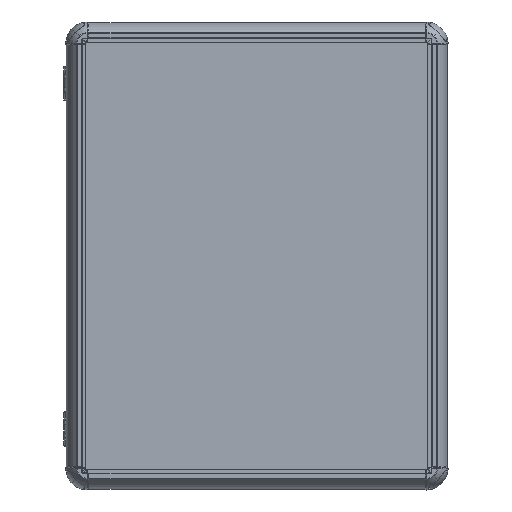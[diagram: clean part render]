
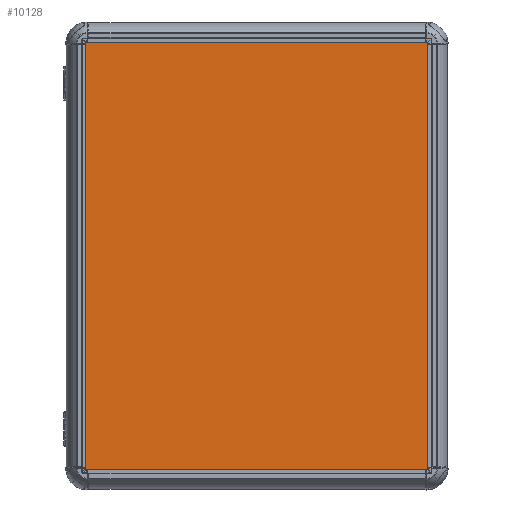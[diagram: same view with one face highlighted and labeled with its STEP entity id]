
A CAD part, top view. The second image highlights one B-rep face of the part: STEP entity #10128.
In plain terms, the highlighted planar face has unit normal (0, 0, 1).
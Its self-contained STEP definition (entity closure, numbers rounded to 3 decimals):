
#6 = EDGE_CURVE ( 'NONE', #145625, #150586, #86297, .T. ) ;
#10128 = ADVANCED_FACE ( 'NONE', ( #60547 ), #97147, .T. ) ;
#18899 = DIRECTION ( 'NONE',  ( -1., 0., 0. ) ) ;
#23058 = LINE ( 'NONE', #147759, #68539 ) ;
#26805 = DIRECTION ( 'NONE',  ( 0., -1., 0. ) ) ;
#28061 = VECTOR ( 'NONE', #26805, 1000. ) ;
#38987 = EDGE_LOOP ( 'NONE', ( #123384, #78680, #44852, #130674 ) ) ;
#40806 = CARTESIAN_POINT ( 'NONE',  ( -200., -250., 2. ) ) ;
#41861 = VECTOR ( 'NONE', #18899, 1000. ) ;
#43446 = VECTOR ( 'NONE', #99722, 1000. ) ;
#44122 = EDGE_CURVE ( 'NONE', #67269, #145625, #103568, .T. ) ;
#44852 = ORIENTED_EDGE ( 'NONE', *, *, #6, .T. ) ;
#53166 = EDGE_CURVE ( 'NONE', #94819, #67269, #23058, .T. ) ;
#59899 = CARTESIAN_POINT ( 'NONE',  ( -200., -250., 2. ) ) ;
#60547 = FACE_OUTER_BOUND ( 'NONE', #38987, .T. ) ;
#67269 = VERTEX_POINT ( 'NONE', #71554 ) ;
#68539 = VECTOR ( 'NONE', #71120, 1000. ) ;
#71120 = DIRECTION ( 'NONE',  ( 0., 1., 0. ) ) ;
#71554 = CARTESIAN_POINT ( 'NONE',  ( 200., 250., 2. ) ) ;
#71964 = CARTESIAN_POINT ( 'NONE',  ( 0., 0., 2. ) ) ;
#78680 = ORIENTED_EDGE ( 'NONE', *, *, #44122, .T. ) ;
#86297 = LINE ( 'NONE', #136069, #28061 ) ;
#94819 = VERTEX_POINT ( 'NONE', #126225 ) ;
#97147 = PLANE ( 'NONE',  #140479 ) ;
#97307 = LINE ( 'NONE', #59899, #43446 ) ;
#98758 = DIRECTION ( 'NONE',  ( 1., 0., 0. ) ) ;
#99722 = DIRECTION ( 'NONE',  ( 1., 0., 0. ) ) ;
#103568 = LINE ( 'NONE', #115808, #41861 ) ;
#115808 = CARTESIAN_POINT ( 'NONE',  ( -200., 250., 2. ) ) ;
#123384 = ORIENTED_EDGE ( 'NONE', *, *, #53166, .T. ) ;
#124051 = DIRECTION ( 'NONE',  ( 0., 0., 1. ) ) ;
#126225 = CARTESIAN_POINT ( 'NONE',  ( 200., -250., 2. ) ) ;
#130674 = ORIENTED_EDGE ( 'NONE', *, *, #142480, .T. ) ;
#136069 = CARTESIAN_POINT ( 'NONE',  ( -200., 250., 2. ) ) ;
#136192 = CARTESIAN_POINT ( 'NONE',  ( -200., 250., 2. ) ) ;
#140479 = AXIS2_PLACEMENT_3D ( 'NONE', #71964, #124051, #98758 ) ;
#142480 = EDGE_CURVE ( 'NONE', #150586, #94819, #97307, .T. ) ;
#145625 = VERTEX_POINT ( 'NONE', #136192 ) ;
#147759 = CARTESIAN_POINT ( 'NONE',  ( 200., 250., 2. ) ) ;
#150586 = VERTEX_POINT ( 'NONE', #40806 ) ;
